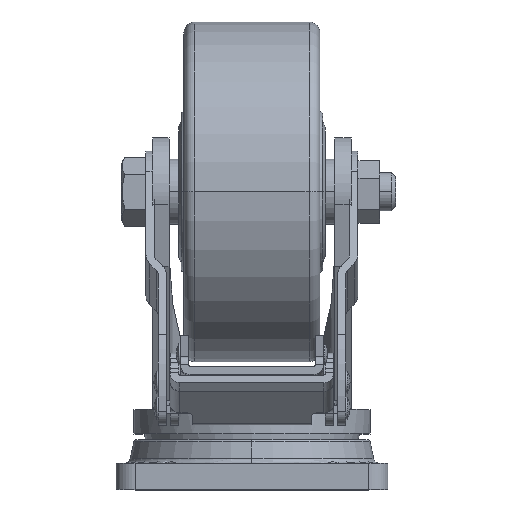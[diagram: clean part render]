
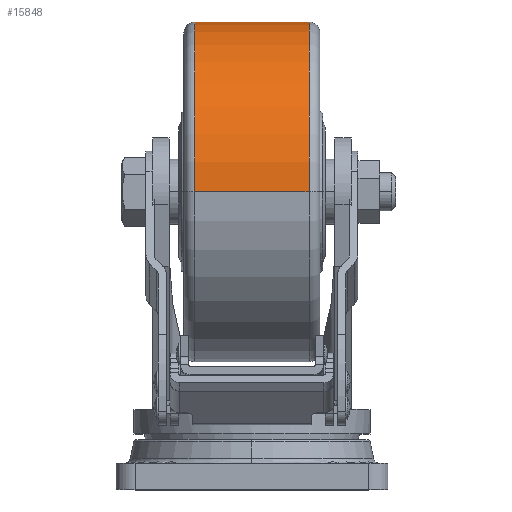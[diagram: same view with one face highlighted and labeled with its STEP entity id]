
A CAD part, top view. The second image highlights one B-rep face of the part: STEP entity #15848.
In plain terms, the highlighted cylindrical face has radius 62.5 mm (diameter 125 mm), a partial arc.
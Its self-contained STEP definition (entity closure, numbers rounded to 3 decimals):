
#13042=CARTESIAN_POINT('',(0.,0.,21.));
#13043=DIRECTION('',(0.,0.,-1.));
#13044=DIRECTION('',(-1.,0.,0.));
#13045=AXIS2_PLACEMENT_3D('',#13042,#13043,#13044);
#13052=DIRECTION('',(0.,0.,1.));
#13053=VECTOR('',#13052,42.);
#13054=CARTESIAN_POINT('',(62.5,0.,-21.));
#13055=LINE('',#13054,#13053);
#13061=CARTESIAN_POINT('',(0.,0.,-21.));
#13062=DIRECTION('',(0.,0.,1.));
#13063=DIRECTION('',(1.,0.,0.));
#13064=AXIS2_PLACEMENT_3D('',#13061,#13062,#13063);
#13096=DIRECTION('',(0.,0.,1.));
#13097=VECTOR('',#13096,42.);
#13098=CARTESIAN_POINT('',(-62.5,0.,-21.));
#13099=LINE('',#13098,#13097);
#14489=CARTESIAN_POINT('',(-62.5,0.,21.));
#14490=CARTESIAN_POINT('',(62.5,0.,21.));
#14491=VERTEX_POINT('',#14489);
#14492=VERTEX_POINT('',#14490);
#14493=CARTESIAN_POINT('',(62.5,0.,-21.));
#14494=CARTESIAN_POINT('',(-62.5,0.,-21.));
#14495=VERTEX_POINT('',#14493);
#14496=VERTEX_POINT('',#14494);
#15834=CARTESIAN_POINT('',(0.,0.,26.));
#15835=DIRECTION('',(0.,0.,1.));
#15836=DIRECTION('',(1.,0.,0.));
#15837=AXIS2_PLACEMENT_3D('',#15834,#15835,#15836);
#15838=CYLINDRICAL_SURFACE('',#15837,62.5);
#15840=ORIENTED_EDGE('',*,*,#15839,.F.);
#15842=ORIENTED_EDGE('',*,*,#15841,.T.);
#15843=ORIENTED_EDGE('',*,*,#15824,.F.);
#15845=ORIENTED_EDGE('',*,*,#15844,.F.);
#15846=EDGE_LOOP('',(#15840,#15842,#15843,#15845));
#15847=FACE_OUTER_BOUND('',#15846,.F.);
#13046=CIRCLE('',#13045,62.5);
#13065=CIRCLE('',#13064,62.5);
#15824=EDGE_CURVE('',#14491,#14492,#13046,.T.);
#15839=EDGE_CURVE('',#14495,#14496,#13065,.T.);
#15841=EDGE_CURVE('',#14495,#14492,#13055,.T.);
#15844=EDGE_CURVE('',#14496,#14491,#13099,.T.);
#15848=ADVANCED_FACE('',(#15847),#15838,.T.);
